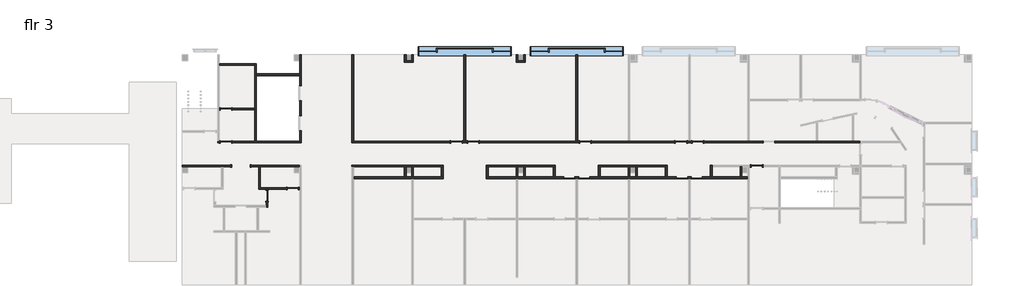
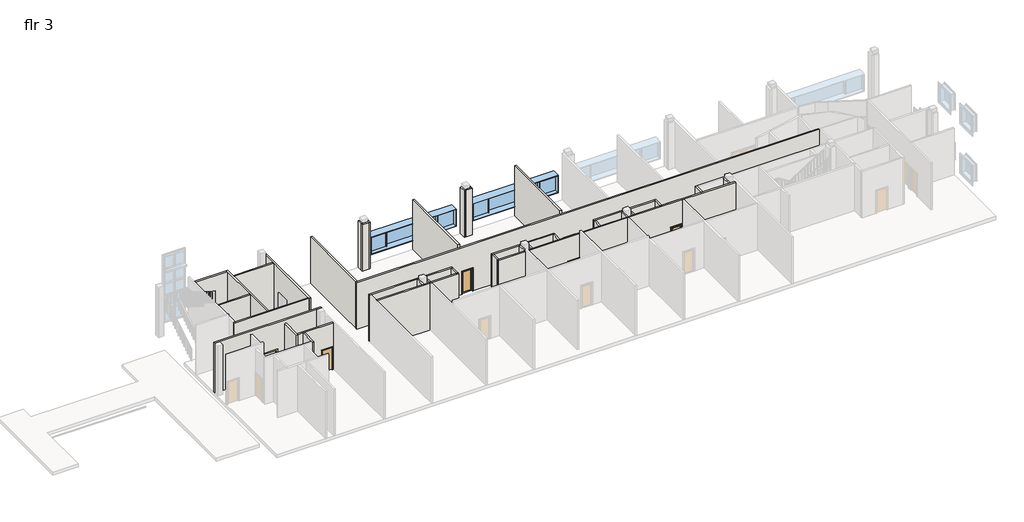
# One storey, part 2 of 4: 38 walls, 15 doors, 2 windows.
"""IFC4 building model written with IfcOpenShell, lengths in millimetres."""

from ifc_helpers import new_model, si_unit, frame, origin, place, context, project, spatial, polyline, outline, extrude, faceted_brep, transform, mapped, element, save
from components import door_df85aeb6, door_c6edcd30, door_9814c99b, door_e49b49a8, door_4364fc02, fixed_25_x5_r1_fixed_25_x5_r1_81c53d64

model = new_model("IFC4")

# Units and contexts
model_context = context("Model", 3, world=origin())
ifc_project = project(units=[si_unit("LENGTHUNIT", "METRE", prefix="MILLI")], contexts=[model_context])

# Site, building, storey
site = spatial("IfcSite", under=ifc_project)
building = spatial("IfcBuilding", under=site)
storey = spatial("IfcBuildingStorey", under=building, Name="flr 3", Elevation=10210.8)

# Doors
placement = place(None, origin())
door_shape = door_df85aeb6(model_context)
element("IfcDoor", 1, ObjectType="Cased Opening : 60\" x 84\"", at=placement, inside=storey, context=model_context, shape_type="MappedRepresentation", body=[
    mapped(door_shape, transform((-110751.290902, 34756.8571029, 10210.8), x_axis=(-1.0, 0.0, 0.0), y_axis=(0.0, -1.0, 0.0), z_axis=(0.0, 0.0, 1.0))),
])
door_2_shape = door_c6edcd30(model_context)
element("IfcDoor", 2, ObjectType="Sgl Flush : 36\" x 84\"", at=placement, inside=storey, context=model_context, shape_type="MappedRepresentation", body=[
    mapped(door_2_shape, transform((-106515.840902, 32928.0571029, 10210.8), x_axis=(1.0, 0.0, 0.0), y_axis=(0.0, 1.0, 0.0), z_axis=(0.0, 0.0, 1.0))),
])
door_3_shape = door_9814c99b(model_context)
element("IfcDoor", 3, ObjectType="Sgl Flush : 36\" x 84\"", at=placement, inside=storey, context=model_context, shape_type="MappedRepresentation", body=[
    mapped(door_3_shape, transform((-111970.490902, 36725.3571029, 10210.8), x_axis=(-1.0, 0.0, 0.0), y_axis=(0.0, -1.0, 0.0), z_axis=(0.0, 0.0, 1.0))),
])
element("IfcDoor", 4, ObjectType="Sgl Flush : 36\" x 84\"", at=placement, inside=storey, context=model_context, shape_type="MappedRepresentation", body=[
    mapped(door_3_shape, transform((-111970.490902, 39417.7571029, 10210.8), x_axis=(-1.0, 0.0, 0.0), y_axis=(0.0, -1.0, 0.0), z_axis=(0.0, 0.0, 1.0))),
])
element("IfcDoor", 5, ObjectType="Sgl Flush : 36\" x 84\"", at=placement, inside=storey, context=model_context, shape_type="MappedRepresentation", body=[
    mapped(door_3_shape, transform((-108617.690902, 32324.8071029, 10210.8), x_axis=(0.0, 1.0, 0.0), y_axis=(-1.0, 0.0, 0.0), z_axis=(0.0, 0.0, 1.0))),
])
element("IfcDoor", 6, ObjectType="Sgl Flush : 36\" x 84\"", at=placement, inside=storey, context=model_context, shape_type="MappedRepresentation", body=[
    mapped(door_3_shape, transform((-68619.040902, 34756.8571029, 10210.8), x_axis=(-1.0, 0.0, 0.0), y_axis=(0.0, -1.0, 0.0), z_axis=(0.0, 0.0, 1.0))),
])
element("IfcDoor", 7, ObjectType="Sgl Flush : 36\" x 84\"", at=placement, inside=storey, context=model_context, shape_type="MappedRepresentation", body=[
    mapped(door_3_shape, transform((-82633.490902, 36725.3571029, 10210.8), x_axis=(-1.0, 0.0, 0.0), y_axis=(0.0, -1.0, 0.0), z_axis=(0.0, 0.0, 1.0))),
])
door_4_shape = door_e49b49a8(model_context)
element("IfcDoor", 8, ObjectType="Sgl-Glass 1 : 36\" x 84\"", at=placement, inside=storey, context=model_context, shape_type="MappedRepresentation", body=[
    mapped(door_4_shape, transform((-74810.290902, 36725.3571029, 10210.8), x_axis=(1.0, 0.0, 0.0), y_axis=(0.0, 1.0, 0.0), z_axis=(0.0, 0.0, 1.0))),
])
element("IfcDoor", 9, ObjectType="Sgl-Glass 1 : 36\" x 84\"", at=placement, inside=storey, context=model_context, shape_type="MappedRepresentation", body=[
    mapped(door_4_shape, transform((-73514.890902, 33798.0071029, 10210.8), x_axis=(-1.0, 0.0, 0.0), y_axis=(0.0, -1.0, 0.0), z_axis=(0.0, 0.0, 1.0))),
])
element("IfcDoor", 10, ObjectType="Sgl-Glass 1 : 36\" x 84\"", at=placement, inside=storey, context=model_context, shape_type="MappedRepresentation", body=[
    mapped(door_4_shape, transform((-93149.090902, 36725.3571029, 10210.8), x_axis=(1.0, 0.0, 0.0), y_axis=(0.0, 1.0, 0.0), z_axis=(0.0, 0.0, 1.0))),
])
element("IfcDoor", 11, ObjectType="Sgl-Glass 1 : 36\" x 84\"", at=placement, inside=storey, context=model_context, shape_type="MappedRepresentation", body=[
    mapped(door_4_shape, transform((-82709.690902, 33798.0071029, 10210.8), x_axis=(-1.0, 0.0, 0.0), y_axis=(0.0, -1.0, 0.0), z_axis=(0.0, 0.0, 1.0))),
])
door_5_shape = door_4364fc02(model_context)
element("IfcDoor", 12, ObjectType="Sgl-Glass 1 : 36\" x 84\"", at=placement, inside=storey, context=model_context, shape_type="MappedRepresentation", body=[
    mapped(door_5_shape, transform((-73438.690902, 36725.3571029, 10210.8), x_axis=(-1.0, 0.0, 0.0), y_axis=(0.0, -1.0, 0.0), z_axis=(0.0, 0.0, 1.0))),
])
element("IfcDoor", 13, ObjectType="Sgl-Glass 1 : 36\" x 84\"", at=placement, inside=storey, context=model_context, shape_type="MappedRepresentation", body=[
    mapped(door_5_shape, transform((-74734.090902, 33798.0071029, 10210.8), x_axis=(1.0, 0.0, 0.0), y_axis=(0.0, 1.0, 0.0), z_axis=(0.0, 0.0, 1.0))),
])
element("IfcDoor", 14, ObjectType="Sgl-Glass 1 : 36\" x 84\"", at=placement, inside=storey, context=model_context, shape_type="MappedRepresentation", body=[
    mapped(door_5_shape, transform((-91777.490902, 36725.3571029, 10210.8), x_axis=(-1.0, 0.0, 0.0), y_axis=(0.0, -1.0, 0.0), z_axis=(0.0, 0.0, 1.0))),
])
element("IfcDoor", 15, ObjectType="Sgl-Glass 1 : 36\" x 84\"", at=placement, inside=storey, context=model_context, shape_type="MappedRepresentation", body=[
    mapped(door_5_shape, transform((-83928.890902, 33798.0071029, 10210.8), x_axis=(1.0, 0.0, 0.0), y_axis=(0.0, 1.0, 0.0), z_axis=(0.0, 0.0, 1.0))),
])

# Walls
element("IfcWall", 16, ObjectType="Interior - 5 1/2\" Partition (1-hr)", at=placement, inside=storey, context=model_context, shape_type="Brep", body=[
    faceted_brep([(-111513.290902, 34826.7071029, 12344.4), (-111513.290902, 34826.7071029, 10210.8), (-115553.8578209, 34826.7071029, 10210.8), (-115553.8578209, 34826.7071029, 14935.2), (-105950.690902, 34826.7071029, 14935.2), (-105950.690902, 34826.7071029, 14630.4), (-105950.690902, 34826.7071029, 10210.8), (-109989.290902, 34826.7071029, 10210.8), (-109989.290902, 34826.7071029, 12344.4), (-115553.8578209, 34687.0071029, 10210.8), (-112345.140902, 34687.0071029, 10210.8), (-112205.440902, 34687.0071029, 10210.8), (-111513.290902, 34687.0071029, 10210.8), (-111513.290902, 34687.0071029, 12344.4), (-109989.290902, 34687.0071029, 12344.4), (-109989.290902, 34687.0071029, 10210.8), (-109297.140902, 34687.0071029, 10210.8), (-109157.440902, 34687.0071029, 10210.8), (-105950.690902, 34687.0071029, 10210.8), (-105950.690902, 34687.0071029, 14935.2), (-115553.8578209, 34687.0071029, 14935.2)], [[[0, 1, 2, 3, 4, 5, 6, 7, 8]], [[9, 10, 11, 12, 13, 14, 15, 16, 17, 18, 19, 20]], [[2, 1, 12, 11, 10, 9]], [[7, 6, 18, 17, 16, 15]], [[4, 3, 20, 19]], [[6, 5, 4, 19, 18]], [[3, 2, 9, 20]], [[13, 12, 1, 0]], [[14, 13, 0, 8]], [[15, 14, 8, 7]]]),
])
element("IfcWall", 17, ObjectType="Interior - 5 1/2\" Partition (1-hr)", at=placement, inside=storey, context=model_context, shape_type="Brep", body=[
    faceted_brep([(-105950.690902, 40071.8071029, 12369.8), (-105950.690902, 40071.8071029, 10210.8), (-105950.690902, 38865.3071029, 10210.8), (-105950.690902, 38865.3071029, 12369.8), (-105950.690902, 37633.4071029, 12369.8), (-105950.690902, 37633.4071029, 10210.8), (-105950.690902, 36795.2071029, 10210.8), (-105950.690902, 36655.5071029, 10210.8), (-105950.690902, 36655.5071029, 14630.4), (-105950.690902, 36795.2071029, 14630.4), (-105950.690902, 42141.9071029, 14630.4), (-105950.690902, 42281.6071029, 14630.4), (-105950.690902, 43832.5946029, 14630.4), (-105950.690902, 43832.5946029, 10210.8), (-105950.690902, 42281.6071029, 10210.8), (-105950.690902, 42141.9071029, 10210.8), (-105950.690902, 41303.7071029, 10210.8), (-105950.690902, 41303.7071029, 12369.8), (-105810.990902, 38865.3071029, 10210.8), (-105810.990902, 40071.8071029, 10210.8), (-105810.990902, 40071.8071029, 12369.8), (-105810.990902, 41303.7071029, 12369.8), (-105810.990902, 41303.7071029, 10210.8), (-105810.990902, 43832.5946029, 10210.8), (-105810.990902, 43832.5946029, 14630.4), (-105810.990902, 36655.5071029, 14630.4), (-105810.990902, 36655.5071029, 10210.8), (-105810.990902, 37633.4071029, 10210.8), (-105810.990902, 37633.4071029, 12369.8), (-105810.990902, 38865.3071029, 12369.8)], [[[0, 1, 2, 3, 4, 5, 6, 7, 8, 9, 10, 11, 12, 13, 14, 15, 16, 17]], [[18, 19, 20, 21, 22, 23, 24, 25, 26, 27, 28, 29]], [[7, 6, 5, 27, 26]], [[2, 1, 19, 18]], [[16, 15, 14, 13, 23, 22]], [[8, 7, 26, 25]], [[13, 12, 24, 23]], [[12, 11, 10, 9, 8, 25, 24]], [[28, 27, 5, 4]], [[29, 28, 4, 3]], [[18, 29, 3, 2]], [[20, 19, 1, 0]], [[21, 20, 0, 17]], [[22, 21, 17, 16]]]),
])
element("IfcWall", 18, ObjectType="Interior - 5 1/2\" Partition (1-hr)", at=placement, inside=storey, context=model_context, shape_type="Brep", body=[
    faceted_brep([(-112427.690902, 36795.2071029, 12344.4), (-112427.690902, 36795.2071029, 10210.8), (-112510.240902, 36795.2071029, 10210.8), (-112649.940902, 36795.2071029, 10210.8), (-112649.940902, 36795.2071029, 14630.4), (-112510.240902, 36795.2071029, 14630.4), (-109633.690902, 36795.2071029, 14630.4), (-109493.990902, 36795.2071029, 14630.4), (-105950.690902, 36795.2071029, 14630.4), (-105950.690902, 36795.2071029, 10210.8), (-109493.990902, 36795.2071029, 10210.8), (-109633.690902, 36795.2071029, 10210.8), (-111513.290902, 36795.2071029, 10210.8), (-111513.290902, 36795.2071029, 12344.4), (-112649.940902, 36655.5071029, 10210.8), (-112427.690902, 36655.5071029, 10210.8), (-112427.690902, 36655.5071029, 12344.4), (-111513.290902, 36655.5071029, 12344.4), (-111513.290902, 36655.5071029, 10210.8), (-105950.690902, 36655.5071029, 10210.8), (-105950.690902, 36655.5071029, 14630.4), (-112649.940902, 36655.5071029, 14630.4)], [[[0, 1, 2, 3, 4, 5, 6, 7, 8, 9, 10, 11, 12, 13]], [[14, 15, 16, 17, 18, 19, 20, 21]], [[3, 2, 1, 15, 14]], [[12, 11, 10, 9, 19, 18]], [[4, 3, 14, 21]], [[9, 8, 20, 19]], [[8, 7, 6, 5, 4, 21, 20]], [[16, 15, 1, 0]], [[17, 16, 0, 13]], [[18, 17, 13, 12]]]),
])
element("IfcWall", 19, ObjectType="Interior - 5 1/2\" Partition (1-hr)", at=placement, inside=storey, context=model_context, shape_type="Brep", body=[
    faceted_brep([(-109493.990902, 36795.2071029, 10210.8), (-109493.990902, 42141.9071029, 10210.8), (-109493.990902, 42281.6071029, 10210.8), (-109493.990902, 43119.8071029, 10210.8), (-109493.990902, 43119.8071029, 14630.4), (-109493.990902, 42281.6071029, 14630.4), (-109493.990902, 42141.9071029, 14630.4), (-109493.990902, 36795.2071029, 14630.4), (-109633.690902, 36795.2071029, 10210.8), (-109633.690902, 36795.2071029, 14630.4), (-109633.690902, 39347.9071029, 14630.4), (-109633.690902, 39487.6071029, 14630.4), (-109633.690902, 42980.1071029, 14630.4), (-109633.690902, 43119.8071029, 14630.4), (-109633.690902, 43119.8071029, 10210.8), (-109633.690902, 42980.1071029, 10210.8), (-109633.690902, 39487.6071029, 10210.8), (-109633.690902, 39347.9071029, 10210.8)], [[[0, 1, 2, 3, 4, 5, 6, 7]], [[8, 9, 10, 11, 12, 13, 14, 15, 16, 17]], [[3, 2, 1, 0, 8, 17, 16, 15, 14]], [[4, 3, 14, 13]], [[0, 7, 9, 8]], [[7, 6, 5, 4, 13, 12, 11, 10, 9]]]),
])
element("IfcWall", 20, ObjectType="Interior - 5 1/2\" Partition (1-hr)", at=placement, inside=storey, context=model_context, shape_type="SweptSolid", body=[
    extrude(outline(polyline([(-112510.240902, 43119.8071029), (-109633.690902, 43119.8071029), (-109633.690902, 42980.1071029), (-112510.240902, 42980.1071029), (-112510.240902, 43119.8071029)])), frame((0.0, 0.0, 10210.8), z_axis=(0.0, 0.0, 1.0), x_axis=(1.0, 0.0, 0.0)), (0.0, 0.0, 1.0), 4419.6),
])
element("IfcWall", 21, ObjectType="Interior - 5 1/2\" Partition (1-hr)", at=placement, inside=storey, context=model_context, shape_type="SweptSolid", body=[
    extrude(outline(polyline([(-105950.690902, 42141.9071029), (-109493.990902, 42141.9071029), (-109493.990902, 42281.6071029), (-105950.690902, 42281.6071029), (-105950.690902, 42141.9071029)])), frame((0.0, 0.0, 10210.8), z_axis=(0.0, 0.0, 1.0), x_axis=(1.0, 0.0, 0.0)), (0.0, 0.0, 1.0), 4419.6),
])
element("IfcWall", 22, ObjectType="Interior - 5 1/2\" Partition (1-hr)", at=placement, inside=storey, context=model_context, shape_type="SweptSolid", body=[
    extrude(outline(polyline([(10210.8, -112510.240902), (10210.8, -112427.690902), (12344.4, -112427.690902), (12344.4, -111513.290902), (10210.8, -111513.290902), (10210.8, -109633.690902), (14630.4, -109633.690902), (14630.4, -112510.240902), (10210.8, -112510.240902)])), frame((0.0, 39347.9071029, 0.0), z_axis=(0.0, 1.0, 0.0), x_axis=(0.0, 0.0, 1.0)), (0.0, 0.0, 1.0), 139.7),
])
element("IfcWall", 23, ObjectType="Interior - 5 1/2\" Partition (1-hr)", at=placement, inside=storey, context=model_context, shape_type="Brep", body=[
    faceted_brep([(-109297.140902, 34687.0071029, 10210.8), (-109297.140902, 32858.2071029, 10210.8), (-109297.140902, 32858.2071029, 14630.4), (-109297.140902, 34687.0071029, 14630.4), (-109157.440902, 34687.0071029, 10210.8), (-109157.440902, 34687.0071029, 14630.4), (-109157.440902, 32997.9071029, 14630.4), (-109157.440902, 32858.2071029, 14630.4), (-109157.440902, 32858.2071029, 10210.8), (-109157.440902, 32997.9071029, 10210.8)], [[[0, 1, 2, 3]], [[4, 5, 6, 7, 8, 9]], [[1, 0, 4, 9, 8]], [[2, 1, 8, 7]], [[0, 3, 5, 4]], [[3, 2, 7, 6, 5]]]),
])
element("IfcWall", 24, ObjectType="Interior - 5 1/2\" Partition (1-hr)", at=placement, inside=storey, context=model_context, shape_type="Brep", body=[
    faceted_brep([(-106058.640902, 32858.2071029, 12344.4), (-106058.640902, 32858.2071029, 10210.8), (-105950.690902, 32858.2071029, 10210.8), (-105950.690902, 32858.2071029, 14630.4), (-108547.840902, 32858.2071029, 14630.4), (-108687.540902, 32858.2071029, 14630.4), (-109157.440902, 32858.2071029, 14630.4), (-109157.440902, 32858.2071029, 10210.8), (-108687.540902, 32858.2071029, 10210.8), (-108547.840902, 32858.2071029, 10210.8), (-106973.040902, 32858.2071029, 10210.8), (-106973.040902, 32858.2071029, 12344.4), (-105950.690902, 32997.9071029, 10210.8), (-106058.640902, 32997.9071029, 10210.8), (-106058.640902, 32997.9071029, 12344.4), (-106973.040902, 32997.9071029, 12344.4), (-106973.040902, 32997.9071029, 10210.8), (-109157.440902, 32997.9071029, 10210.8), (-109157.440902, 32997.9071029, 14630.4), (-105950.690902, 32997.9071029, 14630.4)], [[[0, 1, 2, 3, 4, 5, 6, 7, 8, 9, 10, 11]], [[12, 13, 14, 15, 16, 17, 18, 19]], [[2, 1, 13, 12]], [[10, 9, 8, 7, 17, 16]], [[7, 6, 18, 17]], [[3, 2, 12, 19]], [[6, 5, 4, 3, 19, 18]], [[14, 13, 1, 0]], [[15, 14, 0, 11]], [[16, 15, 11, 10]]]),
])
element("IfcWall", 25, ObjectType="Interior - 5 1/2\" Partition (1-hr)", at=placement, inside=storey, context=model_context, shape_type="Brep", body=[
    faceted_brep([(-108687.540902, 32858.2071029, 10210.8), (-108687.540902, 32782.0071029, 10210.8), (-108687.540902, 32782.0071029, 12344.4), (-108687.540902, 31867.6071029, 12344.4), (-108687.540902, 31867.6071029, 10210.8), (-108687.540902, 31550.1071029, 10210.8), (-108687.540902, 31410.4071029, 10210.8), (-108687.540902, 31410.4071029, 14630.4), (-108687.540902, 31550.1071029, 14630.4), (-108687.540902, 32858.2071029, 14630.4), (-108547.840902, 32782.0071029, 12344.4), (-108547.840902, 32782.0071029, 10210.8), (-108547.840902, 32858.2071029, 10210.8), (-108547.840902, 32858.2071029, 14630.4), (-108547.840902, 31410.4071029, 14630.4), (-108547.840902, 31410.4071029, 10210.8), (-108547.840902, 31867.6071029, 10210.8), (-108547.840902, 31867.6071029, 12344.4)], [[[0, 1, 2, 3, 4, 5, 6, 7, 8, 9]], [[10, 11, 12, 13, 14, 15, 16, 17]], [[12, 11, 1, 0]], [[16, 15, 6, 5, 4]], [[7, 6, 15, 14]], [[0, 9, 13, 12]], [[9, 8, 7, 14, 13]], [[2, 1, 11, 10]], [[3, 2, 10, 17]], [[4, 3, 17, 16]]]),
])
element("IfcWall", 26, ObjectType="Interior - 5 1/2\" Partition (1-hr)", at=placement, inside=storey, context=model_context, shape_type="Brep", body=[
    faceted_brep([(-101677.140902, 34687.0071029, 10210.8), (-101537.440902, 34687.0071029, 10210.8), (-97403.590902, 34687.0071029, 10210.8), (-97263.890902, 34687.0071029, 10210.8), (-96806.690902, 34687.0071029, 10210.8), (-96666.990902, 34687.0071029, 10210.8), (-94368.290902, 34687.0071029, 10210.8), (-94228.590902, 34687.0071029, 10210.8), (-94228.590902, 34687.0071029, 14630.4), (-94368.290902, 34687.0071029, 14630.4), (-96666.990902, 34687.0071029, 14630.4), (-96806.690902, 34687.0071029, 14630.4), (-97263.890902, 34687.0071029, 14630.4), (-97403.590902, 34687.0071029, 14630.4), (-101537.440902, 34687.0071029, 14630.4), (-101677.140902, 34687.0071029, 14630.4), (-101677.140902, 34826.7071029, 10210.8), (-101677.140902, 34826.7071029, 14630.4), (-94228.590902, 34826.7071029, 14630.4), (-94228.590902, 34826.7071029, 10210.8)], [[[0, 1, 2, 3, 4, 5, 6, 7, 8, 9, 10, 11, 12, 13, 14, 15]], [[16, 17, 18, 19]], [[7, 6, 5, 4, 3, 2, 1, 0, 16, 19]], [[0, 15, 17, 16]], [[8, 7, 19, 18]], [[15, 14, 13, 12, 11, 10, 9, 8, 18, 17]]]),
])
element("IfcWall", 27, ObjectType="Interior - 5 1/2\" Partition (1-hr)", at=placement, inside=storey, context=model_context, shape_type="Brep", body=[
    faceted_brep([(-91320.290902, 36655.5071029, 10210.8), (-83090.690902, 36655.5071029, 10210.8), (-83090.690902, 36655.5071029, 12344.4), (-82176.290902, 36655.5071029, 12344.4), (-82176.290902, 36655.5071029, 10210.8), (-75267.490902, 36655.5071029, 10210.8), (-75267.490902, 36655.5071029, 12344.4), (-74353.090902, 36655.5071029, 12344.4), (-74353.090902, 36655.5071029, 10210.8), (-73895.890902, 36655.5071029, 10210.8), (-73895.890902, 36655.5071029, 12344.4), (-72981.490902, 36655.5071029, 12344.4), (-72981.490902, 36655.5071029, 10210.8), (-68085.640902, 36655.5071029, 10210.8), (-68085.640902, 36655.5071029, 12344.4), (-67171.240902, 36655.5071029, 12344.4), (-67171.240902, 36655.5071029, 10210.8), (-60230.690902, 36655.5071029, 10210.8), (-60230.690902, 36655.5071029, 14630.4), (-101677.140902, 36655.5071029, 14630.4), (-101677.140902, 36655.5071029, 10210.8), (-93606.290902, 36655.5071029, 10210.8), (-93606.290902, 36655.5071029, 12344.4), (-92691.890902, 36655.5071029, 12344.4), (-92691.890902, 36655.5071029, 10210.8), (-92234.690902, 36655.5071029, 10210.8), (-92234.690902, 36655.5071029, 12344.4), (-91320.290902, 36655.5071029, 12344.4), (-83090.690902, 36795.2071029, 12344.4), (-83090.690902, 36795.2071029, 10210.8), (-83249.440902, 36795.2071029, 10210.8), (-83389.140902, 36795.2071029, 10210.8), (-91320.290902, 36795.2071029, 10210.8), (-91320.290902, 36795.2071029, 12344.4), (-92234.690902, 36795.2071029, 12344.4), (-92234.690902, 36795.2071029, 10210.8), (-92393.440902, 36795.2071029, 10210.8), (-92533.140902, 36795.2071029, 10210.8), (-92691.890902, 36795.2071029, 10210.8), (-92691.890902, 36795.2071029, 12344.4), (-93606.290902, 36795.2071029, 12344.4), (-93606.290902, 36795.2071029, 10210.8), (-101537.440902, 36795.2071029, 10210.8), (-101677.140902, 36795.2071029, 10210.8), (-101677.140902, 36795.2071029, 14630.4), (-101537.440902, 36795.2071029, 14630.4), (-79115.590902, 36795.2071029, 14630.4), (-78975.890902, 36795.2071029, 14630.4), (-74194.340902, 36795.2071029, 14630.4), (-74054.640902, 36795.2071029, 14630.4), (-69374.690902, 36795.2071029, 14630.4), (-69234.990902, 36795.2071029, 14630.4), (-63773.990902, 36795.2071029, 14630.4), (-63646.990902, 36795.2071029, 14630.4), (-60821.240902, 36795.2071029, 14630.4), (-60694.240902, 36795.2071029, 14630.4), (-60230.690902, 36795.2071029, 14630.4), (-60230.690902, 36795.2071029, 10210.8), (-60694.240902, 36795.2071029, 10210.8), (-60821.240902, 36795.2071029, 10210.8), (-63646.990902, 36795.2071029, 10210.8), (-63773.990902, 36795.2071029, 10210.8), (-67171.240902, 36795.2071029, 10210.8), (-67171.240902, 36795.2071029, 12344.4), (-68085.640902, 36795.2071029, 12344.4), (-68085.640902, 36795.2071029, 10210.8), (-69234.990902, 36795.2071029, 10210.8), (-69374.690902, 36795.2071029, 10210.8), (-72981.490902, 36795.2071029, 10210.8), (-72981.490902, 36795.2071029, 12344.4), (-73895.890902, 36795.2071029, 12344.4), (-73895.890902, 36795.2071029, 10210.8), (-74054.640902, 36795.2071029, 10210.8), (-74194.340902, 36795.2071029, 10210.8), (-74353.090902, 36795.2071029, 10210.8), (-74353.090902, 36795.2071029, 12344.4), (-75267.490902, 36795.2071029, 12344.4), (-75267.490902, 36795.2071029, 10210.8), (-78975.890902, 36795.2071029, 10210.8), (-79115.590902, 36795.2071029, 10210.8), (-82176.290902, 36795.2071029, 10210.8), (-82176.290902, 36795.2071029, 12344.4)], [[[0, 1, 2, 3, 4, 5, 6, 7, 8, 9, 10, 11, 12, 13, 14, 15, 16, 17, 18, 19, 20, 21, 22, 23, 24, 25, 26, 27]], [[28, 29, 30, 31, 32, 33, 34, 35, 36, 37, 38, 39, 40, 41, 42, 43, 44, 45, 46, 47, 48, 49, 50, 51, 52, 53, 54, 55, 56, 57, 58, 59, 60, 61, 62, 63, 64, 65, 66, 67, 68, 69, 70, 71, 72, 73, 74, 75, 76, 77, 78, 79, 80, 81]], [[74, 73, 72, 71, 9, 8]], [[38, 37, 36, 35, 25, 24]], [[68, 67, 66, 65, 13, 12]], [[62, 61, 60, 59, 58, 57, 17, 16]], [[21, 20, 43, 42, 41]], [[32, 31, 30, 29, 1, 0]], [[80, 79, 78, 77, 5, 4]], [[20, 19, 44, 43]], [[18, 17, 57, 56]], [[19, 18, 56, 55, 54, 53, 52, 51, 50, 49, 48, 47, 46, 45, 44]], [[75, 74, 8, 7]], [[76, 75, 7, 6]], [[77, 76, 6, 5]], [[10, 9, 71, 70]], [[11, 10, 70, 69]], [[12, 11, 69, 68]], [[14, 13, 65, 64]], [[15, 14, 64, 63]], [[16, 15, 63, 62]], [[39, 38, 24, 23]], [[40, 39, 23, 22]], [[41, 40, 22, 21]], [[26, 25, 35, 34]], [[27, 26, 34, 33]], [[0, 27, 33, 32]], [[2, 1, 29, 28]], [[3, 2, 28, 81]], [[4, 3, 81, 80]]]),
])
element("IfcWall", 28, ObjectType="Interior - 5 1/2\" Partition (1-hr)", at=placement, inside=storey, context=model_context, shape_type="SweptSolid", body=[
    extrude(outline(polyline([(-101537.440902, 43832.5946029), (-101537.440902, 36795.2071029), (-101677.140902, 36795.2071029), (-101677.140902, 43832.5946029), (-101537.440902, 43832.5946029)])), frame((0.0, 0.0, 10210.8), z_axis=(0.0, 0.0, 1.0), x_axis=(1.0, 0.0, 0.0)), (0.0, 0.0, 1.0), 4419.6),
])
element("IfcWall", 29, ObjectType="Interior - 5 1/2\" Partition (1-hr)", at=placement, inside=storey, context=model_context, shape_type="Brep", body=[
    faceted_brep([(-96806.690902, 43832.5946029, 10210.8), (-96806.690902, 43373.8071029, 10210.8), (-96806.690902, 43234.1071029, 10210.8), (-96806.690902, 43234.1071029, 14630.4), (-96806.690902, 43373.8071029, 14630.4), (-96806.690902, 43832.5946029, 14630.4), (-96666.990902, 43832.5946029, 10210.8), (-96666.990902, 43832.5946029, 14630.4), (-96666.990902, 43234.1071029, 14630.4), (-96666.990902, 43234.1071029, 10210.8)], [[[0, 1, 2, 3, 4, 5]], [[6, 7, 8, 9]], [[2, 1, 0, 6, 9]], [[3, 2, 9, 8]], [[0, 5, 7, 6]], [[5, 4, 3, 8, 7]]]),
])
element("IfcWall", 30, ObjectType="Interior - 5 1/2\" Partition (1-hr)", at=placement, inside=storey, context=model_context, shape_type="Brep", body=[
    faceted_brep([(-96806.690902, 43373.8071029, 10210.8), (-97263.890902, 43373.8071029, 10210.8), (-97403.590902, 43373.8071029, 10210.8), (-97403.590902, 43373.8071029, 14630.4), (-97263.890902, 43373.8071029, 14630.4), (-96806.690902, 43373.8071029, 14630.4), (-96806.690902, 43234.1071029, 10210.8), (-96806.690902, 43234.1071029, 14630.4), (-97403.590902, 43234.1071029, 14630.4), (-97403.590902, 43234.1071029, 10210.8)], [[[0, 1, 2, 3, 4, 5]], [[6, 7, 8, 9]], [[2, 1, 0, 6, 9]], [[3, 2, 9, 8]], [[0, 5, 7, 6]], [[5, 4, 3, 8, 7]]]),
])
element("IfcWall", 31, ObjectType="Interior - 5 1/2\" Partition (1-hr)", at=placement, inside=storey, context=model_context, shape_type="SweptSolid", body=[
    extrude(outline(polyline([(-97263.890902, 43832.5946029), (-97263.890902, 43373.8071029), (-97403.590902, 43373.8071029), (-97403.590902, 43832.5946029), (-97263.890902, 43832.5946029)])), frame((0.0, 0.0, 10210.8), z_axis=(0.0, 0.0, 1.0), x_axis=(1.0, 0.0, 0.0)), (0.0, 0.0, 1.0), 4419.6),
])
element("IfcWall", 32, ObjectType="Interior - 5 1/2\" Partition (1-hr)", at=placement, inside=storey, context=model_context, shape_type="Brep", body=[
    faceted_brep([(-83166.890902, 33867.8571029, 10210.8), (-83471.690902, 33867.8571029, 10210.8), (-83471.690902, 33867.8571029, 12344.4), (-84386.090902, 33867.8571029, 12344.4), (-84386.090902, 33867.8571029, 10210.8), (-85084.590902, 33867.8571029, 10210.8), (-85224.290902, 33867.8571029, 10210.8), (-87522.990902, 33867.8571029, 10210.8), (-87662.690902, 33867.8571029, 10210.8), (-88119.890902, 33867.8571029, 10210.8), (-88259.590902, 33867.8571029, 10210.8), (-90558.290902, 33867.8571029, 10210.8), (-90697.990902, 33867.8571029, 10210.8), (-90697.990902, 33867.8571029, 14630.4), (-90558.290902, 33867.8571029, 14630.4), (-88259.590902, 33867.8571029, 14630.4), (-88119.890902, 33867.8571029, 14630.4), (-87662.690902, 33867.8571029, 14630.4), (-87522.990902, 33867.8571029, 14630.4), (-85224.290902, 33867.8571029, 14630.4), (-85084.590902, 33867.8571029, 14630.4), (-81553.990902, 33867.8571029, 14630.4), (-81414.290902, 33867.8571029, 14630.4), (-79115.590902, 33867.8571029, 14630.4), (-78975.890902, 33867.8571029, 14630.4), (-78518.690902, 33867.8571029, 14630.4), (-78378.990902, 33867.8571029, 14630.4), (-76080.290902, 33867.8571029, 14630.4), (-75940.590902, 33867.8571029, 14630.4), (-72409.990902, 33867.8571029, 14630.4), (-72270.290902, 33867.8571029, 14630.4), (-69971.590902, 33867.8571029, 14630.4), (-69831.890902, 33867.8571029, 14630.4), (-69374.690902, 33867.8571029, 14630.4), (-69374.690902, 33867.8571029, 10210.8), (-69831.890902, 33867.8571029, 10210.8), (-69971.590902, 33867.8571029, 10210.8), (-72270.290902, 33867.8571029, 10210.8), (-72409.990902, 33867.8571029, 10210.8), (-73057.690902, 33867.8571029, 10210.8), (-73057.690902, 33867.8571029, 12344.4), (-73972.090902, 33867.8571029, 12344.4), (-73972.090902, 33867.8571029, 10210.8), (-74276.890902, 33867.8571029, 10210.8), (-74276.890902, 33867.8571029, 12344.4), (-75191.290902, 33867.8571029, 12344.4), (-75191.290902, 33867.8571029, 10210.8), (-75940.590902, 33867.8571029, 10210.8), (-76080.290902, 33867.8571029, 10210.8), (-78378.990902, 33867.8571029, 10210.8), (-78518.690902, 33867.8571029, 10210.8), (-78975.890902, 33867.8571029, 10210.8), (-79115.590902, 33867.8571029, 10210.8), (-81414.290902, 33867.8571029, 10210.8), (-81553.990902, 33867.8571029, 10210.8), (-82252.490902, 33867.8571029, 10210.8), (-82252.490902, 33867.8571029, 12344.4), (-83166.890902, 33867.8571029, 12344.4), (-83471.690902, 33728.1571029, 12344.4), (-83471.690902, 33728.1571029, 10210.8), (-83389.140902, 33728.1571029, 10210.8), (-83249.440902, 33728.1571029, 10210.8), (-83166.890902, 33728.1571029, 10210.8), (-83166.890902, 33728.1571029, 12344.4), (-82252.490902, 33728.1571029, 12344.4), (-82252.490902, 33728.1571029, 10210.8), (-79115.590902, 33728.1571029, 10210.8), (-78975.890902, 33728.1571029, 10210.8), (-75191.290902, 33728.1571029, 10210.8), (-75191.290902, 33728.1571029, 12344.4), (-74276.890902, 33728.1571029, 12344.4), (-74276.890902, 33728.1571029, 10210.8), (-74194.340902, 33728.1571029, 10210.8), (-74054.640902, 33728.1571029, 10210.8), (-73972.090902, 33728.1571029, 10210.8), (-73972.090902, 33728.1571029, 12344.4), (-73057.690902, 33728.1571029, 12344.4), (-73057.690902, 33728.1571029, 10210.8), (-69374.690902, 33728.1571029, 10210.8), (-69374.690902, 33728.1571029, 14630.4), (-74054.640902, 33728.1571029, 14630.4), (-74194.340902, 33728.1571029, 14630.4), (-78975.890902, 33728.1571029, 14630.4), (-79115.590902, 33728.1571029, 14630.4), (-90697.990902, 33728.1571029, 14630.4), (-90697.990902, 33728.1571029, 10210.8), (-88259.590902, 33728.1571029, 10210.8), (-88119.890902, 33728.1571029, 10210.8), (-84386.090902, 33728.1571029, 10210.8), (-84386.090902, 33728.1571029, 12344.4)], [[[0, 1, 2, 3, 4, 5, 6, 7, 8, 9, 10, 11, 12, 13, 14, 15, 16, 17, 18, 19, 20, 21, 22, 23, 24, 25, 26, 27, 28, 29, 30, 31, 32, 33, 34, 35, 36, 37, 38, 39, 40, 41, 42, 43, 44, 45, 46, 47, 48, 49, 50, 51, 52, 53, 54, 55, 56, 57]], [[58, 59, 60, 61, 62, 63, 64, 65, 66, 67, 68, 69, 70, 71, 72, 73, 74, 75, 76, 77, 78, 79, 80, 81, 82, 83, 84, 85, 86, 87, 88, 89]], [[43, 42, 74, 73, 72, 71]], [[62, 61, 60, 59, 1, 0]], [[39, 38, 37, 36, 35, 34, 78, 77]], [[55, 54, 53, 52, 51, 50, 49, 48, 47, 46, 68, 67, 66, 65]], [[88, 87, 86, 85, 12, 11, 10, 9, 8, 7, 6, 5, 4]], [[13, 12, 85, 84]], [[34, 33, 79, 78]], [[33, 32, 31, 30, 29, 28, 27, 26, 25, 24, 23, 22, 21, 20, 19, 18, 17, 16, 15, 14, 13, 84, 83, 82, 81, 80, 79]], [[44, 43, 71, 70]], [[45, 44, 70, 69]], [[46, 45, 69, 68]], [[75, 74, 42, 41]], [[76, 75, 41, 40]], [[77, 76, 40, 39]], [[63, 62, 0, 57]], [[64, 63, 57, 56]], [[65, 64, 56, 55]], [[2, 1, 59, 58]], [[3, 2, 58, 89]], [[4, 3, 89, 88]]]),
])
element("IfcWall", 33, ObjectType="Interior - 5 1/2\" Partition (1-hr)", at=placement, inside=storey, context=model_context, shape_type="SweptSolid", body=[
    extrude(outline(polyline([(-69831.890902, 34687.0071029), (-69831.890902, 33867.8571029), (-69971.590902, 33867.8571029), (-69971.590902, 34687.0071029), (-69831.890902, 34687.0071029)])), frame((0.0, 0.0, 10210.8), z_axis=(0.0, 0.0, 1.0), x_axis=(1.0, 0.0, 0.0)), (0.0, 0.0, 1.0), 4419.6),
])
element("IfcWall", 34, ObjectType="Interior - 5 1/2\" Partition (1-hr)", at=placement, inside=storey, context=model_context, shape_type="SweptSolid", body=[
    extrude(outline(polyline([(-78378.990902, 34687.0071029), (-78378.990902, 33867.8571029), (-78518.690902, 33867.8571029), (-78518.690902, 34687.0071029), (-78378.990902, 34687.0071029)])), frame((0.0, 0.0, 10210.8), z_axis=(0.0, 0.0, 1.0), x_axis=(1.0, 0.0, 0.0)), (0.0, 0.0, 1.0), 4419.6),
])
element("IfcWall", 35, ObjectType="Interior - 5 1/2\" Partition (1-hr)", at=placement, inside=storey, context=model_context, shape_type="SweptSolid", body=[
    extrude(outline(polyline([(-78975.890902, 34687.0071029), (-78975.890902, 33867.8571029), (-79115.590902, 33867.8571029), (-79115.590902, 34687.0071029), (-78975.890902, 34687.0071029)])), frame((0.0, 0.0, 10210.8), z_axis=(0.0, 0.0, 1.0), x_axis=(1.0, 0.0, 0.0)), (0.0, 0.0, 1.0), 4419.6),
])
element("IfcWall", 36, ObjectType="Interior - 5 1/2\" Partition (1-hr)", at=placement, inside=storey, context=model_context, shape_type="SweptSolid", body=[
    extrude(outline(polyline([(-97263.890902, 34687.0071029), (-97263.890902, 33867.8571029), (-97403.590902, 33867.8571029), (-97403.590902, 34687.0071029), (-97263.890902, 34687.0071029)])), frame((0.0, 0.0, 10210.8), z_axis=(0.0, 0.0, 1.0), x_axis=(1.0, 0.0, 0.0)), (0.0, 0.0, 1.0), 4419.6),
])
element("IfcWall", 37, ObjectType="Interior - 5 1/2\" Partition (1-hr)", at=placement, inside=storey, context=model_context, shape_type="SweptSolid", body=[
    extrude(outline(polyline([(-96666.990902, 34687.0071029), (-96666.990902, 33867.8571029), (-96806.690902, 33867.8571029), (-96806.690902, 34687.0071029), (-96666.990902, 34687.0071029)])), frame((0.0, 0.0, 10210.8), z_axis=(0.0, 0.0, 1.0), x_axis=(1.0, 0.0, 0.0)), (0.0, 0.0, 1.0), 4419.6),
])
element("IfcWall", 38, ObjectType="Interior - 5 1/2\" Partition (1-hr)", at=placement, inside=storey, context=model_context, shape_type="SweptSolid", body=[
    extrude(outline(polyline([(-88119.890902, 34687.0071029), (-88119.890902, 33867.8571029), (-88259.590902, 33867.8571029), (-88259.590902, 34687.0071029), (-88119.890902, 34687.0071029)])), frame((0.0, 0.0, 10210.8), z_axis=(0.0, 0.0, 1.0), x_axis=(1.0, 0.0, 0.0)), (0.0, 0.0, 1.0), 4419.6),
])
element("IfcWall", 39, ObjectType="Interior - 5 1/2\" Partition (1-hr)", at=placement, inside=storey, context=model_context, shape_type="SweptSolid", body=[
    extrude(outline(polyline([(-87522.990902, 34687.0071029), (-87522.990902, 33867.8571029), (-87662.690902, 33867.8571029), (-87662.690902, 34687.0071029), (-87522.990902, 34687.0071029)])), frame((0.0, 0.0, 10210.8), z_axis=(0.0, 0.0, 1.0), x_axis=(1.0, 0.0, 0.0)), (0.0, 0.0, 1.0), 4419.6),
])
element("IfcWall", 40, ObjectType="Interior - 5 1/2\" Partition (1-hr)", at=placement, inside=storey, context=model_context, shape_type="SweptSolid", body=[
    extrude(outline(polyline([(-94228.590902, 34687.0071029), (-94228.590902, 33867.8571029), (-94368.290902, 33867.8571029), (-94368.290902, 34687.0071029), (-94228.590902, 34687.0071029)])), frame((0.0, 0.0, 10210.8), z_axis=(0.0, 0.0, 1.0), x_axis=(1.0, 0.0, 0.0)), (0.0, 0.0, 1.0), 4419.6),
])
element("IfcWall", 41, ObjectType="Interior - 5 1/2\" Partition (1-hr)", at=placement, inside=storey, context=model_context, shape_type="SweptSolid", body=[
    extrude(outline(polyline([(-90558.290902, 34687.0071029), (-90558.290902, 33867.8571029), (-90697.990902, 33867.8571029), (-90697.990902, 34687.0071029), (-90558.290902, 34687.0071029)])), frame((0.0, 0.0, 10210.8), z_axis=(0.0, 0.0, 1.0), x_axis=(1.0, 0.0, 0.0)), (0.0, 0.0, 1.0), 4419.6),
])
element("IfcWall", 42, ObjectType="Interior - 5 1/2\" Partition (1-hr)", at=placement, inside=storey, context=model_context, shape_type="SweptSolid", body=[
    extrude(outline(polyline([(-85084.590902, 34687.0071029), (-85084.590902, 33867.8571029), (-85224.290902, 33867.8571029), (-85224.290902, 34687.0071029), (-85084.590902, 34687.0071029)])), frame((0.0, 0.0, 10210.8), z_axis=(0.0, 0.0, 1.0), x_axis=(1.0, 0.0, 0.0)), (0.0, 0.0, 1.0), 4419.6),
])
element("IfcWall", 43, ObjectType="Interior - 5 1/2\" Partition (1-hr)", at=placement, inside=storey, context=model_context, shape_type="SweptSolid", body=[
    extrude(outline(polyline([(-81414.290902, 34687.0071029), (-81414.290902, 33867.8571029), (-81553.990902, 33867.8571029), (-81553.990902, 34687.0071029), (-81414.290902, 34687.0071029)])), frame((0.0, 0.0, 10210.8), z_axis=(0.0, 0.0, 1.0), x_axis=(1.0, 0.0, 0.0)), (0.0, 0.0, 1.0), 4419.6),
])
element("IfcWall", 44, ObjectType="Interior - 5 1/2\" Partition (1-hr)", at=placement, inside=storey, context=model_context, shape_type="Brep", body=[
    faceted_brep([(-90697.990902, 34687.0071029, 10210.8), (-90558.290902, 34687.0071029, 10210.8), (-88259.590902, 34687.0071029, 10210.8), (-88119.890902, 34687.0071029, 10210.8), (-87662.690902, 34687.0071029, 10210.8), (-87522.990902, 34687.0071029, 10210.8), (-85224.290902, 34687.0071029, 10210.8), (-85084.590902, 34687.0071029, 10210.8), (-85084.590902, 34687.0071029, 14630.4), (-85224.290902, 34687.0071029, 14630.4), (-87522.990902, 34687.0071029, 14630.4), (-87662.690902, 34687.0071029, 14630.4), (-88119.890902, 34687.0071029, 14630.4), (-88259.590902, 34687.0071029, 14630.4), (-90558.290902, 34687.0071029, 14630.4), (-90697.990902, 34687.0071029, 14630.4), (-90697.990902, 34826.7071029, 10210.8), (-90697.990902, 34826.7071029, 14630.4), (-85084.590902, 34826.7071029, 14630.4), (-85084.590902, 34826.7071029, 10210.8)], [[[0, 1, 2, 3, 4, 5, 6, 7, 8, 9, 10, 11, 12, 13, 14, 15]], [[16, 17, 18, 19]], [[7, 6, 5, 4, 3, 2, 1, 0, 16, 19]], [[0, 15, 17, 16]], [[8, 7, 19, 18]], [[15, 14, 13, 12, 11, 10, 9, 8, 18, 17]]]),
])
element("IfcWall", 45, ObjectType="Interior - 5 1/2\" Partition (1-hr)", at=placement, inside=storey, context=model_context, shape_type="Brep", body=[
    faceted_brep([(-81553.990902, 34687.0071029, 10210.8), (-81414.290902, 34687.0071029, 10210.8), (-79115.590902, 34687.0071029, 10210.8), (-78975.890902, 34687.0071029, 10210.8), (-78518.690902, 34687.0071029, 10210.8), (-78378.990902, 34687.0071029, 10210.8), (-76080.290902, 34687.0071029, 10210.8), (-76080.290902, 34687.0071029, 14630.4), (-78378.990902, 34687.0071029, 14630.4), (-78518.690902, 34687.0071029, 14630.4), (-78975.890902, 34687.0071029, 14630.4), (-79115.590902, 34687.0071029, 14630.4), (-81414.290902, 34687.0071029, 14630.4), (-81553.990902, 34687.0071029, 14630.4), (-81553.990902, 34826.7071029, 10210.8), (-81553.990902, 34826.7071029, 14630.4), (-76080.290902, 34826.7071029, 14630.4), (-76080.290902, 34826.7071029, 10210.8)], [[[0, 1, 2, 3, 4, 5, 6, 7, 8, 9, 10, 11, 12, 13]], [[14, 15, 16, 17]], [[6, 5, 4, 3, 2, 1, 0, 14, 17]], [[0, 13, 15, 14]], [[7, 6, 17, 16]], [[13, 12, 11, 10, 9, 8, 7, 16, 15]]]),
])
element("IfcWall", 46, ObjectType="Interior - 5 1/2\" Partition (1-hr)", at=placement, inside=storey, context=model_context, shape_type="Brep", body=[
    faceted_brep([(-75940.590902, 33867.8571029, 10210.8), (-75940.590902, 34826.7071029, 10210.8), (-75940.590902, 34826.7071029, 14630.4), (-75940.590902, 33867.8571029, 14630.4), (-76080.290902, 33867.8571029, 10210.8), (-76080.290902, 33867.8571029, 14630.4), (-76080.290902, 34687.0071029, 14630.4), (-76080.290902, 34826.7071029, 14630.4), (-76080.290902, 34826.7071029, 10210.8), (-76080.290902, 34687.0071029, 10210.8)], [[[0, 1, 2, 3]], [[4, 5, 6, 7, 8, 9]], [[1, 0, 4, 9, 8]], [[2, 1, 8, 7]], [[0, 3, 5, 4]], [[3, 2, 7, 6, 5]]]),
])
element("IfcWall", 47, ObjectType="Interior - 5 1/2\" Partition (1-hr)", at=placement, inside=storey, context=model_context, shape_type="Brep", body=[
    faceted_brep([(-72270.290902, 33867.8571029, 10210.8), (-72270.290902, 34687.0071029, 10210.8), (-72270.290902, 34826.7071029, 10210.8), (-72270.290902, 34826.7071029, 14630.4), (-72270.290902, 34687.0071029, 14630.4), (-72270.290902, 33867.8571029, 14630.4), (-72409.990902, 33867.8571029, 10210.8), (-72409.990902, 33867.8571029, 14630.4), (-72409.990902, 34826.7071029, 14630.4), (-72409.990902, 34826.7071029, 10210.8)], [[[0, 1, 2, 3, 4, 5]], [[6, 7, 8, 9]], [[2, 1, 0, 6, 9]], [[3, 2, 9, 8]], [[0, 5, 7, 6]], [[5, 4, 3, 8, 7]]]),
])
element("IfcWall", 48, ObjectType="Interior - 5 1/2\" Partition (1-hr)", at=placement, inside=storey, context=model_context, shape_type="Brep", body=[
    faceted_brep([(-88259.590902, 43832.5946029, 10210.8), (-88259.590902, 43234.1071029, 10210.8), (-88259.590902, 43234.1071029, 14630.4), (-88259.590902, 43832.5946029, 14630.4), (-88119.890902, 43832.5946029, 10210.8), (-88119.890902, 43832.5946029, 14630.4), (-88119.890902, 43373.8071029, 14630.4), (-88119.890902, 43234.1071029, 14630.4), (-88119.890902, 43234.1071029, 10210.8), (-88119.890902, 43373.8071029, 10210.8)], [[[0, 1, 2, 3]], [[4, 5, 6, 7, 8, 9]], [[1, 0, 4, 9, 8]], [[2, 1, 8, 7]], [[0, 3, 5, 4]], [[3, 2, 7, 6, 5]]]),
])
element("IfcWall", 49, ObjectType="Interior - 5 1/2\" Partition (1-hr)", at=placement, inside=storey, context=model_context, shape_type="Brep", body=[
    faceted_brep([(-88119.890902, 43234.1071029, 10210.8), (-87522.990902, 43234.1071029, 10210.8), (-87522.990902, 43234.1071029, 14630.4), (-88119.890902, 43234.1071029, 14630.4), (-88119.890902, 43373.8071029, 10210.8), (-88119.890902, 43373.8071029, 14630.4), (-87662.690902, 43373.8071029, 14630.4), (-87522.990902, 43373.8071029, 14630.4), (-87522.990902, 43373.8071029, 10210.8), (-87662.690902, 43373.8071029, 10210.8)], [[[0, 1, 2, 3]], [[4, 5, 6, 7, 8, 9]], [[1, 0, 4, 9, 8]], [[2, 1, 8, 7]], [[0, 3, 5, 4]], [[3, 2, 7, 6, 5]]]),
])
element("IfcWall", 50, ObjectType="Interior - 5 1/2\" Partition (1-hr)", at=placement, inside=storey, context=model_context, shape_type="SweptSolid", body=[
    extrude(outline(polyline([(-87522.990902, 43832.5946029), (-87522.990902, 43373.8071029), (-87662.690902, 43373.8071029), (-87662.690902, 43832.5946029), (-87522.990902, 43832.5946029)])), frame((0.0, 0.0, 10210.8), z_axis=(0.0, 0.0, 1.0), x_axis=(1.0, 0.0, 0.0)), (0.0, 0.0, 1.0), 4419.6),
])
element("IfcWall", 51, ObjectType="Interior - 5 1/2\" Partition (1-hr)", at=placement, inside=storey, context=model_context, shape_type="SweptSolid", body=[
    extrude(outline(polyline([(-83249.440902, 43832.5946029), (-83249.440902, 36795.2071029), (-83389.140902, 36795.2071029), (-83389.140902, 43832.5946029), (-83249.440902, 43832.5946029)])), frame((0.0, 0.0, 10210.8), z_axis=(0.0, 0.0, 1.0), x_axis=(1.0, 0.0, 0.0)), (0.0, 0.0, 1.0), 4724.4),
])
element("IfcWall", 52, ObjectType="Interior - 5 1/2\" Partition (1-hr)", at=placement, inside=storey, context=model_context, shape_type="SweptSolid", body=[
    extrude(outline(polyline([(-92393.440902, 43832.5946029), (-92393.440902, 36795.2071029), (-92533.140902, 36795.2071029), (-92533.140902, 43832.5946029), (-92393.440902, 43832.5946029)])), frame((0.0, 0.0, 10210.8), z_axis=(0.0, 0.0, 1.0), x_axis=(1.0, 0.0, 0.0)), (0.0, 0.0, 1.0), 4724.4),
])
element("IfcWall", 53, ObjectType="Interior - 5 1/2\" Partition (1-hr)", at=placement, inside=storey, context=model_context, shape_type="Brep", body=[
    faceted_brep([(-94228.590902, 33867.8571029, 10210.8), (-94368.290902, 33867.8571029, 10210.8), (-96666.990902, 33867.8571029, 10210.8), (-96806.690902, 33867.8571029, 10210.8), (-97263.890902, 33867.8571029, 10210.8), (-97403.590902, 33867.8571029, 10210.8), (-101537.440902, 33867.8571029, 10210.8), (-101537.440902, 33867.8571029, 14630.4), (-97403.590902, 33867.8571029, 14630.4), (-97263.890902, 33867.8571029, 14630.4), (-96806.690902, 33867.8571029, 14630.4), (-96666.990902, 33867.8571029, 14630.4), (-94368.290902, 33867.8571029, 14630.4), (-94228.590902, 33867.8571029, 14630.4), (-94228.590902, 33728.1571029, 10210.8), (-94228.590902, 33728.1571029, 14630.4), (-96666.990902, 33728.1571029, 14630.4), (-96806.690902, 33728.1571029, 14630.4), (-101537.440902, 33728.1571029, 14630.4), (-101537.440902, 33728.1571029, 10210.8), (-96806.690902, 33728.1571029, 10210.8), (-96666.990902, 33728.1571029, 10210.8)], [[[0, 1, 2, 3, 4, 5, 6, 7, 8, 9, 10, 11, 12, 13]], [[14, 15, 16, 17, 18, 19, 20, 21]], [[6, 5, 4, 3, 2, 1, 0, 14, 21, 20, 19]], [[0, 13, 15, 14]], [[7, 6, 19, 18]], [[13, 12, 11, 10, 9, 8, 7, 18, 17, 16, 15]]]),
])

# Windows
fixed_25_x5_r1_fixed_25_x5_r1_shape = fixed_25_x5_r1_fixed_25_x5_r1_81c53d64(model_context)
element("IfcWindow", 54, ObjectType="Fixed 25'x5'-r1 : Fixed 25'x5'-r1", at=placement, inside=storey, context=model_context, shape_type="MappedRepresentation", body=[
    mapped(fixed_25_x5_r1_fixed_25_x5_r1_shape, transform((-83065.290902, 44059.6071029, 10210.8), x_axis=(1.0, 0.0, 0.0), y_axis=(0.0, 1.0, 0.0), z_axis=(0.0, 0.0, 1.0))),
])
element("IfcWindow", 55, ObjectType="Fixed 25'x5'-r1 : Fixed 25'x5'-r1", at=placement, inside=storey, context=model_context, shape_type="MappedRepresentation", body=[
    mapped(fixed_25_x5_r1_fixed_25_x5_r1_shape, transform((-92209.290902, 44059.6071029, 10210.8), x_axis=(1.0, 0.0, 0.0), y_axis=(0.0, 1.0, 0.0), z_axis=(0.0, 0.0, 1.0))),
])

save(model, "model.ifc")
